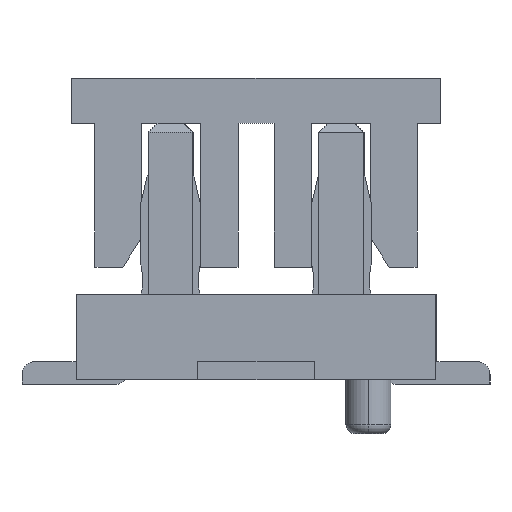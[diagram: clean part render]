
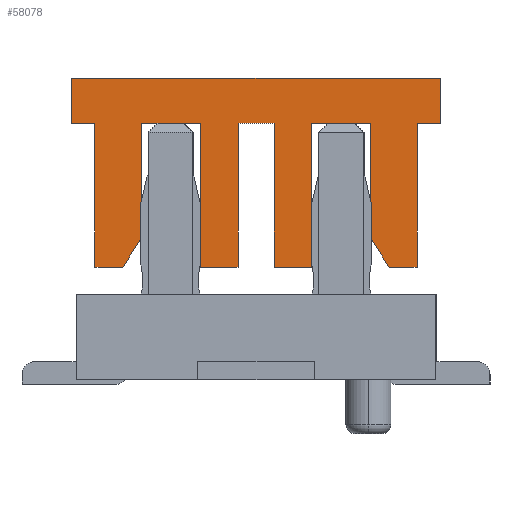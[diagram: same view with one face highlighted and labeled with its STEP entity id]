
A CAD part, left-side view. The second image highlights one B-rep face of the part: STEP entity #58078.
In plain terms, the highlighted planar face has unit normal (-1, 0, 0).
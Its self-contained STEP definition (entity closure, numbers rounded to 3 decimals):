
#57411=CARTESIAN_POINT('Vertex',(-2.,-0.62,1.25)) ;
#57416=CARTESIAN_POINT('Line Origine',(-2.,-0.41,1.25)) ;
#57420=CARTESIAN_POINT('Vertex',(-2.,-0.2,1.25)) ;
#57447=CARTESIAN_POINT('Line Origine',(-2.,-0.2,2.05)) ;
#57451=CARTESIAN_POINT('Vertex',(-2.,-0.2,2.85)) ;
#57478=CARTESIAN_POINT('Line Origine',(-2.,0.,2.85)) ;
#57482=CARTESIAN_POINT('Vertex',(-2.,0.2,2.85)) ;
#57509=CARTESIAN_POINT('Line Origine',(-2.,0.2,2.05)) ;
#57513=CARTESIAN_POINT('Vertex',(-2.,0.2,1.25)) ;
#57535=CARTESIAN_POINT('Line Origine',(-2.,0.41,1.25)) ;
#57539=CARTESIAN_POINT('Vertex',(-2.,0.62,1.25)) ;
#57566=CARTESIAN_POINT('Line Origine',(-2.,0.62,2.05)) ;
#57570=CARTESIAN_POINT('Vertex',(-2.,0.62,2.85)) ;
#57592=CARTESIAN_POINT('Line Origine',(-2.,0.945,2.85)) ;
#57596=CARTESIAN_POINT('Vertex',(-2.,1.27,2.85)) ;
#57623=CARTESIAN_POINT('Line Origine',(-2.,1.27,2.215)) ;
#57627=CARTESIAN_POINT('Vertex',(-2.,1.27,1.58)) ;
#57654=CARTESIAN_POINT('Line Origine',(-2.,1.375,1.415)) ;
#57658=CARTESIAN_POINT('Vertex',(-2.,1.48,1.25)) ;
#57680=CARTESIAN_POINT('Line Origine',(-2.,1.635,1.25)) ;
#57684=CARTESIAN_POINT('Vertex',(-2.,1.79,1.25)) ;
#57711=CARTESIAN_POINT('Line Origine',(-2.,1.79,2.05)) ;
#57715=CARTESIAN_POINT('Vertex',(-2.,1.79,2.85)) ;
#57737=CARTESIAN_POINT('Line Origine',(-2.,1.92,2.85)) ;
#57741=CARTESIAN_POINT('Vertex',(-2.,2.05,2.85)) ;
#57768=CARTESIAN_POINT('Line Origine',(-2.,2.05,3.1)) ;
#57772=CARTESIAN_POINT('Vertex',(-2.,2.05,3.35)) ;
#57799=CARTESIAN_POINT('Line Origine',(-2.,0.,3.35)) ;
#57803=CARTESIAN_POINT('Vertex',(-2.,-2.05,3.35)) ;
#57830=CARTESIAN_POINT('Line Origine',(-2.,-2.05,3.1)) ;
#57834=CARTESIAN_POINT('Vertex',(-2.,-2.05,2.85)) ;
#57856=CARTESIAN_POINT('Line Origine',(-2.,-1.92,2.85)) ;
#57860=CARTESIAN_POINT('Vertex',(-2.,-1.79,2.85)) ;
#57887=CARTESIAN_POINT('Line Origine',(-2.,-1.79,2.05)) ;
#57891=CARTESIAN_POINT('Vertex',(-2.,-1.79,1.25)) ;
#57913=CARTESIAN_POINT('Line Origine',(-2.,-1.635,1.25)) ;
#57917=CARTESIAN_POINT('Vertex',(-2.,-1.48,1.25)) ;
#57944=CARTESIAN_POINT('Line Origine',(-2.,-1.375,1.415)) ;
#57948=CARTESIAN_POINT('Vertex',(-2.,-1.27,1.58)) ;
#57975=CARTESIAN_POINT('Line Origine',(-2.,-1.27,2.215)) ;
#57979=CARTESIAN_POINT('Vertex',(-2.,-1.27,2.85)) ;
#58001=CARTESIAN_POINT('Line Origine',(-2.,-0.945,2.85)) ;
#58005=CARTESIAN_POINT('Vertex',(-2.,-0.62,2.85)) ;
#58032=CARTESIAN_POINT('Line Origine',(-2.,-0.62,2.05)) ;
#58049=CARTESIAN_POINT('Axis2P3D Location',(-2.,0.,0.)) ;
#57417=DIRECTION('Vector Direction',(0.,1.,0.)) ;
#57448=DIRECTION('Vector Direction',(0.,0.,1.)) ;
#57479=DIRECTION('Vector Direction',(0.,1.,0.)) ;
#57510=DIRECTION('Vector Direction',(0.,0.,-1.)) ;
#57536=DIRECTION('Vector Direction',(0.,1.,0.)) ;
#57567=DIRECTION('Vector Direction',(0.,0.,1.)) ;
#57593=DIRECTION('Vector Direction',(0.,1.,0.)) ;
#57624=DIRECTION('Vector Direction',(0.,0.,-1.)) ;
#57655=DIRECTION('Vector Direction',(0.,0.537,-0.844)) ;
#57681=DIRECTION('Vector Direction',(0.,1.,0.)) ;
#57712=DIRECTION('Vector Direction',(0.,0.,1.)) ;
#57738=DIRECTION('Vector Direction',(0.,1.,0.)) ;
#57769=DIRECTION('Vector Direction',(0.,0.,1.)) ;
#57800=DIRECTION('Vector Direction',(0.,1.,0.)) ;
#57831=DIRECTION('Vector Direction',(0.,0.,1.)) ;
#57857=DIRECTION('Vector Direction',(0.,-1.,0.)) ;
#57888=DIRECTION('Vector Direction',(0.,0.,1.)) ;
#57914=DIRECTION('Vector Direction',(0.,-1.,0.)) ;
#57945=DIRECTION('Vector Direction',(0.,-0.537,-0.844)) ;
#57976=DIRECTION('Vector Direction',(0.,0.,-1.)) ;
#58002=DIRECTION('Vector Direction',(0.,-1.,0.)) ;
#58033=DIRECTION('Vector Direction',(0.,0.,1.)) ;
#58050=DIRECTION('Axis2P3D Direction',(1.,0.,0.)) ;
#58051=DIRECTION('Axis2P3D XDirection',(0.,1.,0.)) ;
#58052=AXIS2_PLACEMENT_3D('Plane Axis2P3D',#58049,#58050,#58051) ;
#58055=ORIENTED_EDGE('',*,*,#58036,.F.) ;
#58056=ORIENTED_EDGE('',*,*,#58007,.F.) ;
#58057=ORIENTED_EDGE('',*,*,#57981,.F.) ;
#58058=ORIENTED_EDGE('',*,*,#57950,.F.) ;
#58059=ORIENTED_EDGE('',*,*,#57919,.F.) ;
#58060=ORIENTED_EDGE('',*,*,#57893,.F.) ;
#58061=ORIENTED_EDGE('',*,*,#57862,.F.) ;
#58062=ORIENTED_EDGE('',*,*,#57836,.F.) ;
#58063=ORIENTED_EDGE('',*,*,#57805,.F.) ;
#58064=ORIENTED_EDGE('',*,*,#57774,.F.) ;
#58065=ORIENTED_EDGE('',*,*,#57743,.F.) ;
#58066=ORIENTED_EDGE('',*,*,#57717,.F.) ;
#58067=ORIENTED_EDGE('',*,*,#57686,.F.) ;
#58068=ORIENTED_EDGE('',*,*,#57660,.F.) ;
#58069=ORIENTED_EDGE('',*,*,#57629,.F.) ;
#58070=ORIENTED_EDGE('',*,*,#57598,.F.) ;
#58071=ORIENTED_EDGE('',*,*,#57572,.F.) ;
#58072=ORIENTED_EDGE('',*,*,#57541,.F.) ;
#58073=ORIENTED_EDGE('',*,*,#57515,.F.) ;
#58074=ORIENTED_EDGE('',*,*,#57484,.F.) ;
#58075=ORIENTED_EDGE('',*,*,#57453,.F.) ;
#58076=ORIENTED_EDGE('',*,*,#57422,.F.) ;
#57418=VECTOR('Line Direction',#57417,1.) ;
#57449=VECTOR('Line Direction',#57448,1.) ;
#57480=VECTOR('Line Direction',#57479,1.) ;
#57511=VECTOR('Line Direction',#57510,1.) ;
#57537=VECTOR('Line Direction',#57536,1.) ;
#57568=VECTOR('Line Direction',#57567,1.) ;
#57594=VECTOR('Line Direction',#57593,1.) ;
#57625=VECTOR('Line Direction',#57624,1.) ;
#57656=VECTOR('Line Direction',#57655,1.) ;
#57682=VECTOR('Line Direction',#57681,1.) ;
#57713=VECTOR('Line Direction',#57712,1.) ;
#57739=VECTOR('Line Direction',#57738,1.) ;
#57770=VECTOR('Line Direction',#57769,1.) ;
#57801=VECTOR('Line Direction',#57800,1.) ;
#57832=VECTOR('Line Direction',#57831,1.) ;
#57858=VECTOR('Line Direction',#57857,1.) ;
#57889=VECTOR('Line Direction',#57888,1.) ;
#57915=VECTOR('Line Direction',#57914,1.) ;
#57946=VECTOR('Line Direction',#57945,1.) ;
#57977=VECTOR('Line Direction',#57976,1.) ;
#58003=VECTOR('Line Direction',#58002,1.) ;
#58034=VECTOR('Line Direction',#58033,1.) ;
#58078=ADVANCED_FACE('\X2\76D65B50\X0\',(#58077),#58053,.F.) ;
#57422=EDGE_CURVE('',#57412,#57421,#57419,.T.) ;
#57453=EDGE_CURVE('',#57421,#57452,#57450,.T.) ;
#57484=EDGE_CURVE('',#57452,#57483,#57481,.T.) ;
#57515=EDGE_CURVE('',#57483,#57514,#57512,.T.) ;
#57541=EDGE_CURVE('',#57514,#57540,#57538,.T.) ;
#57572=EDGE_CURVE('',#57540,#57571,#57569,.T.) ;
#57598=EDGE_CURVE('',#57571,#57597,#57595,.T.) ;
#57629=EDGE_CURVE('',#57597,#57628,#57626,.T.) ;
#57660=EDGE_CURVE('',#57628,#57659,#57657,.T.) ;
#57686=EDGE_CURVE('',#57659,#57685,#57683,.T.) ;
#57717=EDGE_CURVE('',#57685,#57716,#57714,.T.) ;
#57743=EDGE_CURVE('',#57716,#57742,#57740,.T.) ;
#57774=EDGE_CURVE('',#57742,#57773,#57771,.T.) ;
#57805=EDGE_CURVE('',#57773,#57804,#57802,.F.) ;
#57836=EDGE_CURVE('',#57804,#57835,#57833,.F.) ;
#57862=EDGE_CURVE('',#57835,#57861,#57859,.F.) ;
#57893=EDGE_CURVE('',#57861,#57892,#57890,.F.) ;
#57919=EDGE_CURVE('',#57892,#57918,#57916,.F.) ;
#57950=EDGE_CURVE('',#57918,#57949,#57947,.F.) ;
#57981=EDGE_CURVE('',#57949,#57980,#57978,.F.) ;
#58007=EDGE_CURVE('',#57980,#58006,#58004,.F.) ;
#58036=EDGE_CURVE('',#58006,#57412,#58035,.F.) ;
#58054=EDGE_LOOP('',(#58055,#58056,#58057,#58058,#58059,#58060,#58061,#58062,#58063,#58064,#58065,#58066,#58067,#58068,#58069,#58070,#58071,#58072,#58073,#58074,#58075,#58076)) ;
#58077=FACE_OUTER_BOUND('',#58054,.T.) ;
#57419=LINE('Line',#57416,#57418) ;
#57450=LINE('Line',#57447,#57449) ;
#57481=LINE('Line',#57478,#57480) ;
#57512=LINE('Line',#57509,#57511) ;
#57538=LINE('Line',#57535,#57537) ;
#57569=LINE('Line',#57566,#57568) ;
#57595=LINE('Line',#57592,#57594) ;
#57626=LINE('Line',#57623,#57625) ;
#57657=LINE('Line',#57654,#57656) ;
#57683=LINE('Line',#57680,#57682) ;
#57714=LINE('Line',#57711,#57713) ;
#57740=LINE('Line',#57737,#57739) ;
#57771=LINE('Line',#57768,#57770) ;
#57802=LINE('Line',#57799,#57801) ;
#57833=LINE('Line',#57830,#57832) ;
#57859=LINE('Line',#57856,#57858) ;
#57890=LINE('Line',#57887,#57889) ;
#57916=LINE('Line',#57913,#57915) ;
#57947=LINE('Line',#57944,#57946) ;
#57978=LINE('Line',#57975,#57977) ;
#58004=LINE('Line',#58001,#58003) ;
#58035=LINE('Line',#58032,#58034) ;
#58053=PLANE('Plane',#58052) ;
#57412=VERTEX_POINT('',#57411) ;
#57421=VERTEX_POINT('',#57420) ;
#57452=VERTEX_POINT('',#57451) ;
#57483=VERTEX_POINT('',#57482) ;
#57514=VERTEX_POINT('',#57513) ;
#57540=VERTEX_POINT('',#57539) ;
#57571=VERTEX_POINT('',#57570) ;
#57597=VERTEX_POINT('',#57596) ;
#57628=VERTEX_POINT('',#57627) ;
#57659=VERTEX_POINT('',#57658) ;
#57685=VERTEX_POINT('',#57684) ;
#57716=VERTEX_POINT('',#57715) ;
#57742=VERTEX_POINT('',#57741) ;
#57773=VERTEX_POINT('',#57772) ;
#57804=VERTEX_POINT('',#57803) ;
#57835=VERTEX_POINT('',#57834) ;
#57861=VERTEX_POINT('',#57860) ;
#57892=VERTEX_POINT('',#57891) ;
#57918=VERTEX_POINT('',#57917) ;
#57949=VERTEX_POINT('',#57948) ;
#57980=VERTEX_POINT('',#57979) ;
#58006=VERTEX_POINT('',#58005) ;
